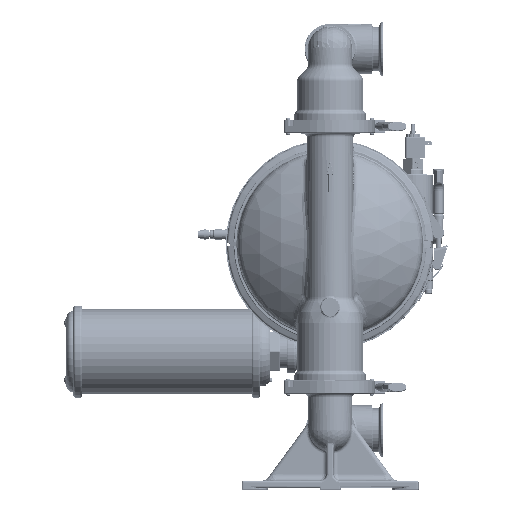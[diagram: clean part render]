
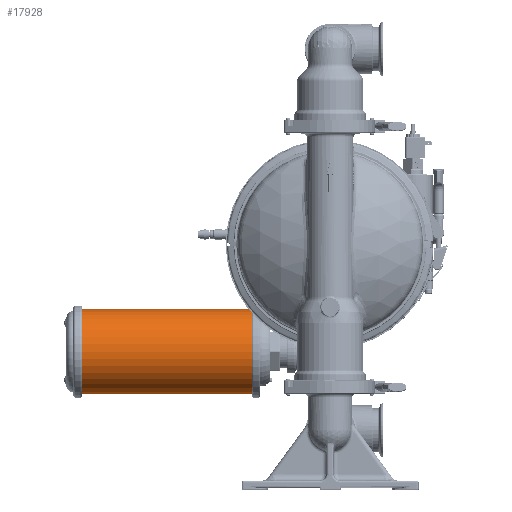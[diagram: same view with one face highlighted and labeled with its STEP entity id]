
A CAD part, top view. The second image highlights one B-rep face of the part: STEP entity #17928.
In plain terms, the highlighted cylindrical face has radius 61.595 mm (diameter 123.19 mm), a partial arc.
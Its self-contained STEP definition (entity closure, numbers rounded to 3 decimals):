
#9231=CYLINDRICAL_SURFACE('',#229581,61.595);
#17928=ADVANCED_FACE('',(#37473),#9231,.T.);
#37473=FACE_OUTER_BOUND('',#49773,.T.);
#49773=EDGE_LOOP('',(#139426,#139427,#139428,#139429));
#70283=LINE('',#377271,#92254);
#70284=LINE('',#377276,#92255);
#92254=VECTOR('',#270999,1.);
#92255=VECTOR('',#271002,1.);
#139426=ORIENTED_EDGE('',*,*,#203509,.F.);
#139427=ORIENTED_EDGE('',*,*,#203510,.F.);
#139428=ORIENTED_EDGE('',*,*,#203511,.T.);
#139429=ORIENTED_EDGE('',*,*,#203512,.F.);
#175869=VERTEX_POINT('',#377272);
#175870=VERTEX_POINT('',#377273);
#175871=VERTEX_POINT('',#377275);
#175872=VERTEX_POINT('',#377277);
#203509=EDGE_CURVE('',#175869,#175870,#70283,.T.);
#203510=EDGE_CURVE('',#175871,#175869,#217448,.T.);
#203511=EDGE_CURVE('',#175871,#175872,#70284,.T.);
#203512=EDGE_CURVE('',#175870,#175872,#217449,.T.);
#217448=CIRCLE('',#229579,61.595);
#217449=CIRCLE('',#229580,61.595);
#229579=AXIS2_PLACEMENT_3D('',#377274,#271000,#271001);
#229580=AXIS2_PLACEMENT_3D('',#377278,#271003,#271004);
#229581=AXIS2_PLACEMENT_3D('',#377279,#271005,#271006);
#270999=DIRECTION('',(-1.,0.,0.));
#271000=DIRECTION('',(1.,0.,0.));
#271001=DIRECTION('',(0.,1.,0.));
#271002=DIRECTION('',(-1.,0.,0.));
#271003=DIRECTION('',(-1.,0.,0.));
#271004=DIRECTION('',(0.,-1.,0.));
#271005=DIRECTION('',(-1.,0.,0.));
#271006=DIRECTION('',(0.,-1.,0.));
#377271=CARTESIAN_POINT('',(-184.6,-311.77,0.));
#377272=CARTESIAN_POINT('',(-184.6,-311.77,0.));
#377273=CARTESIAN_POINT('',(-429.456,-311.77,0.));
#377274=CARTESIAN_POINT('',(-184.6,-250.175,0.));
#377275=CARTESIAN_POINT('',(-184.6,-188.58,0.));
#377276=CARTESIAN_POINT('',(-184.6,-188.58,0.));
#377277=CARTESIAN_POINT('',(-429.456,-188.58,0.));
#377278=CARTESIAN_POINT('',(-429.456,-250.175,0.));
#377279=CARTESIAN_POINT('',(-157.422,-250.175,0.));
